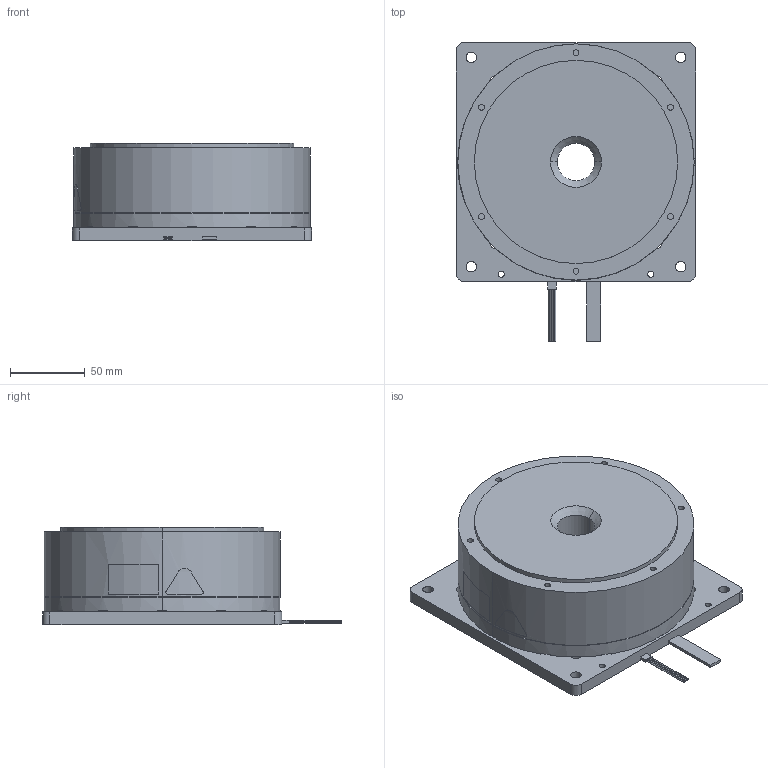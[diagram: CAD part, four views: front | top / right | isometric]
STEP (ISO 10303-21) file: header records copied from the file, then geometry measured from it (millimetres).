
FILE_DESCRIPTION (( 'STEP AP203' ), '1' );
FILE_NAME ('sgm7d_05g_c42.STEP', '2016-02-23T04:27:23', ( '' ), ( '' ), 'SwSTEP 2.0', 'SolidWorks 2010', '' );
FILE_SCHEMA (( 'CONFIG_CONTROL_DESIGN' ));
Length unit declared in the file: millimetre
Products named in the file (1): sgm7d_05g_c42
Bounding box: 160 x 200 x 65 mm (x, y, z)
Volume: 1271290 mm3; surface area: 104967.2 mm2
Topology: 1 solids, 1 shells, 154 faces, 397 edges, 264 vertices
Faces by surface type: cylinder 75, plane 72, bspline 5, cone 2
Entity records: 5124 total; most frequent: CARTESIAN_POINT 1111, DIRECTION 859, ORIENTED_EDGE 794, EDGE_CURVE 397, AXIS2_PLACEMENT_3D 328, VERTEX_POINT 264, LINE 203, VECTOR 203
